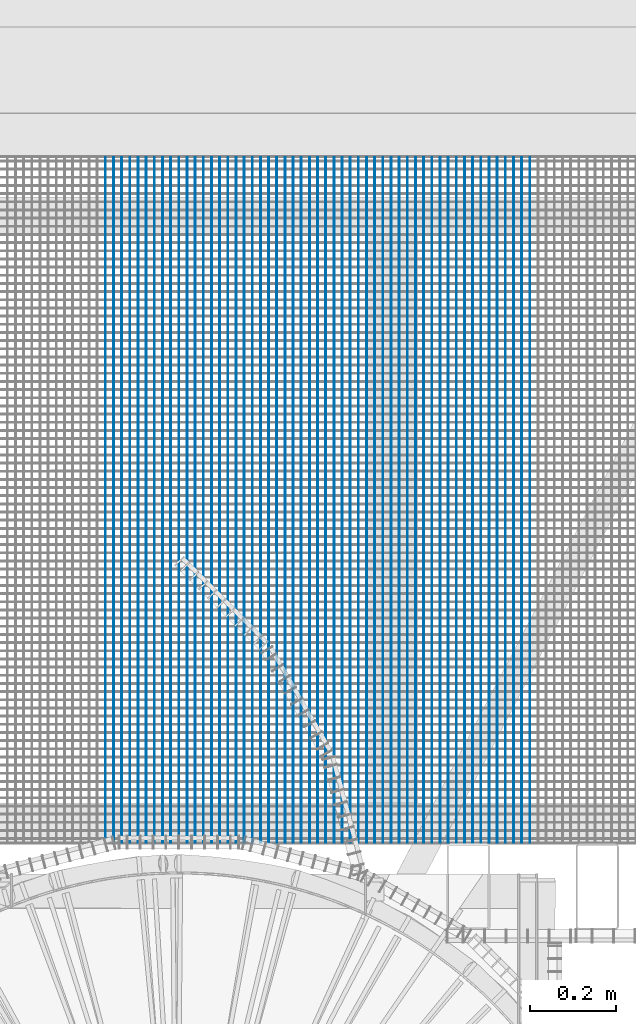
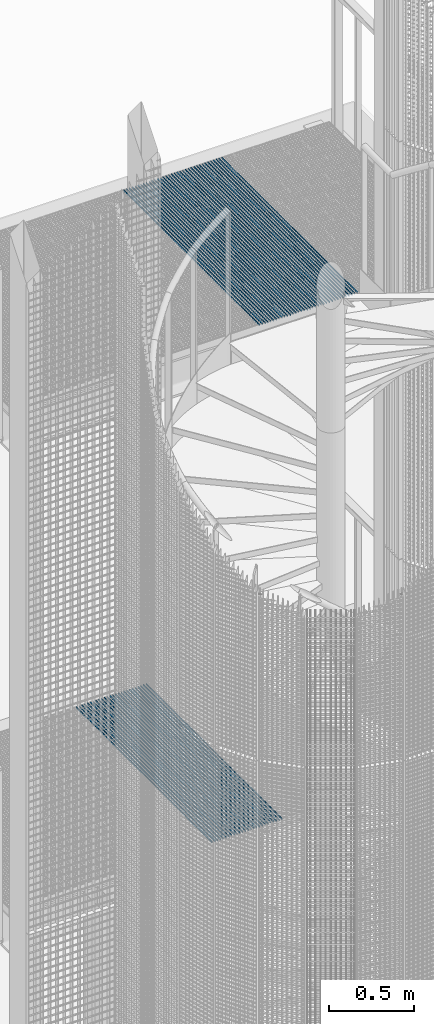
# One storey, part 97 of 1148: 62 beams, 2 elements without a shape of their own.
"""IFC2X3 building model written with IfcOpenShell, lengths in millimetres."""

from ifc_helpers import new_model, si_unit, frame, origin_with_axes, origin_2d_with_axis, place, context, subcontext, project, spatial, rectangle, extrude, material, type_object, element, aggregate, save


model = new_model("IFC2X3")

# Units and contexts
model_context = context("Model", 3, precision=1e-05, world=origin_with_axes())
body_context = subcontext(model_context, "Body", "Model", "MODEL_VIEW")
ifc_project = project(units=[si_unit("LENGTHUNIT", "METRE", prefix="MILLI"), si_unit("AREAUNIT", "SQUARE_METRE"), si_unit("VOLUMEUNIT", "CUBIC_METRE"), si_unit("MASSUNIT", "GRAM", prefix="KILO"), si_unit("TIMEUNIT", "SECOND"), si_unit("PLANEANGLEUNIT", "RADIAN"), si_unit("SOLIDANGLEUNIT", "STERADIAN"), si_unit("THERMODYNAMICTEMPERATUREUNIT", "DEGREE_CELSIUS"), si_unit("LUMINOUSINTENSITYUNIT", "LUMEN")], contexts=[model_context])

# Site, building, storey
site_placement = place(None, origin_with_axes())
site = spatial("IfcSite", under=ifc_project, at=site_placement, Name="Undefined", CompositionType="ELEMENT")
building_placement = place(site_placement, origin_with_axes())
building = spatial("IfcBuilding", under=site, at=building_placement, Name="Undefined", CompositionType="ELEMENT")
storey_placement = place(building_placement, origin_with_axes())
storey = spatial("IfcBuildingStorey", under=building, at=storey_placement, Name="Undefined", CompositionType="ELEMENT", Elevation=0.0)

# Assembly, beams
assembly_1_placement = place(storey_placement, origin_with_axes())
assembly_1 = element("IfcElementAssembly", 1, at=assembly_1_placement, inside=storey, Name="BORDURE", AssemblyPlace="NOTDEFINED", PredefinedType="NOTDEFINED")
ifc_material = material(Name="STEEL/S235JR")
beam_type = type_object("IfcBeamType", Name="PL2*10", PredefinedType="NOTDEFINED")
beam_1_placement = place(assembly_1_placement, frame((21752.1154247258, 1102.00306717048, 13685.0), z_axis=(0.0, 0.0, 1.0), x_axis=(-4.50599999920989e-06, 0.999999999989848, 0.0)))
beam_1 = element("IfcBeam", 2, at=beam_1_placement, type_object=beam_type, material=ifc_material, Name="ENTRETOISE", context=body_context, shape_type="SweptSolid", body=[
    extrude(rectangle(XDim=2.0, YDim=10.0, at=origin_2d_with_axis()), frame((1596.0000000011, -1.35186458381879e-18, -7.27595761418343e-12), z_axis=(-1.0, 0.0, 0.0), x_axis=(0.0, -1.0, 0.0)), (0.0, 0.0, 1.0), 1596.0),
])
beam_2_placement = place(assembly_1_placement, frame((21771.1154247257, 1102.00316068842, 13685.0), z_axis=(0.0, 0.0, 1.0), x_axis=(-4.50599999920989e-06, 0.999999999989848, 0.0)))
beam_2 = element("IfcBeam", 3, at=beam_2_placement, type_object=beam_type, material=ifc_material, Name="ENTRETOISE", context=body_context, shape_type="SweptSolid", body=[
    extrude(rectangle(XDim=2.0, YDim=10.0, at=origin_2d_with_axis()), frame((1596.0000000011, -1.35186458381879e-18, -7.27595761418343e-12), z_axis=(-1.0, 0.0, 0.0), x_axis=(0.0, -1.0, 0.0)), (0.0, 0.0, 1.0), 1596.0),
])
beam_3_placement = place(assembly_1_placement, frame((21790.1154247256, 1102.00325420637, 13685.0), z_axis=(0.0, 0.0, 1.0), x_axis=(-4.50599999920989e-06, 0.999999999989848, 0.0)))
beam_3 = element("IfcBeam", 4, at=beam_3_placement, type_object=beam_type, material=ifc_material, Name="ENTRETOISE", context=body_context, shape_type="SweptSolid", body=[
    extrude(rectangle(XDim=2.0, YDim=10.0, at=origin_2d_with_axis()), frame((1596.0000000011, -1.35186458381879e-18, -7.27595761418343e-12), z_axis=(-1.0, 0.0, 0.0), x_axis=(0.0, -1.0, 0.0)), (0.0, 0.0, 1.0), 1596.0),
])
beam_4_placement = place(assembly_1_placement, frame((21809.1154247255, 1102.00334772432, 13685.0), z_axis=(0.0, 0.0, 1.0), x_axis=(-4.50599999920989e-06, 0.999999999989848, 0.0)))
beam_4 = element("IfcBeam", 5, at=beam_4_placement, type_object=beam_type, material=ifc_material, Name="ENTRETOISE", context=body_context, shape_type="SweptSolid", body=[
    extrude(rectangle(XDim=2.0, YDim=10.0, at=origin_2d_with_axis()), frame((1596.0000000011, -1.35186458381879e-18, -7.27595761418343e-12), z_axis=(-1.0, 0.0, 0.0), x_axis=(0.0, -1.0, 0.0)), (0.0, 0.0, 1.0), 1596.0),
])
beam_5_placement = place(assembly_1_placement, frame((21828.1154247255, 1102.00344124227, 13685.0), z_axis=(0.0, 0.0, 1.0), x_axis=(-4.50599999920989e-06, 0.999999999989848, 0.0)))
beam_5 = element("IfcBeam", 6, at=beam_5_placement, type_object=beam_type, material=ifc_material, Name="ENTRETOISE", context=body_context, shape_type="SweptSolid", body=[
    extrude(rectangle(XDim=2.0, YDim=10.0, at=origin_2d_with_axis()), frame((1596.0000000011, -1.35186458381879e-18, -7.27595761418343e-12), z_axis=(-1.0, 0.0, 0.0), x_axis=(0.0, -1.0, 0.0)), (0.0, 0.0, 1.0), 1596.0),
])
beam_6_placement = place(assembly_1_placement, frame((21847.1154247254, 1102.00353476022, 13685.0), z_axis=(0.0, 0.0, 1.0), x_axis=(-4.50599999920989e-06, 0.999999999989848, 0.0)))
beam_6 = element("IfcBeam", 7, at=beam_6_placement, type_object=beam_type, material=ifc_material, Name="ENTRETOISE", context=body_context, shape_type="SweptSolid", body=[
    extrude(rectangle(XDim=2.0, YDim=10.0, at=origin_2d_with_axis()), frame((1596.0000000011, -1.35186458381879e-18, -7.27595761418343e-12), z_axis=(-1.0, 0.0, 0.0), x_axis=(0.0, -1.0, 0.0)), (0.0, 0.0, 1.0), 1596.0),
])
beam_7_placement = place(assembly_1_placement, frame((21866.1154247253, 1102.00362827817, 13685.0), z_axis=(0.0, 0.0, 1.0), x_axis=(-4.50599999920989e-06, 0.999999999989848, 0.0)))
beam_7 = element("IfcBeam", 8, at=beam_7_placement, type_object=beam_type, material=ifc_material, Name="ENTRETOISE", context=body_context, shape_type="SweptSolid", body=[
    extrude(rectangle(XDim=2.0, YDim=10.0, at=origin_2d_with_axis()), frame((1596.0000000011, -1.35186458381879e-18, -7.27595761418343e-12), z_axis=(-1.0, 0.0, 0.0), x_axis=(0.0, -1.0, 0.0)), (0.0, 0.0, 1.0), 1596.0),
])
beam_8_placement = place(assembly_1_placement, frame((21885.1154247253, 1102.00372179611, 13685.0), z_axis=(0.0, 0.0, 1.0), x_axis=(-4.50599999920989e-06, 0.999999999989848, 0.0)))
beam_8 = element("IfcBeam", 9, at=beam_8_placement, type_object=beam_type, material=ifc_material, Name="ENTRETOISE", context=body_context, shape_type="SweptSolid", body=[
    extrude(rectangle(XDim=2.0, YDim=10.0, at=origin_2d_with_axis()), frame((1596.0000000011, -1.35186458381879e-18, -7.27595761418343e-12), z_axis=(-1.0, 0.0, 0.0), x_axis=(0.0, -1.0, 0.0)), (0.0, 0.0, 1.0), 1596.0),
])
beam_9_placement = place(assembly_1_placement, frame((21904.1154247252, 1102.00381531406, 13685.0), z_axis=(0.0, 0.0, 1.0), x_axis=(-4.50599999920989e-06, 0.999999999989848, 0.0)))
beam_9 = element("IfcBeam", 10, at=beam_9_placement, type_object=beam_type, material=ifc_material, Name="ENTRETOISE", context=body_context, shape_type="SweptSolid", body=[
    extrude(rectangle(XDim=2.0, YDim=10.0, at=origin_2d_with_axis()), frame((1596.0000000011, -1.35186458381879e-18, -7.27595761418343e-12), z_axis=(-1.0, 0.0, 0.0), x_axis=(0.0, -1.0, 0.0)), (0.0, 0.0, 1.0), 1596.0),
])
beam_10_placement = place(assembly_1_placement, frame((21923.1154247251, 1102.00390883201, 13685.0), z_axis=(0.0, 0.0, 1.0), x_axis=(-4.50599999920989e-06, 0.999999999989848, 0.0)))
beam_10 = element("IfcBeam", 11, at=beam_10_placement, type_object=beam_type, material=ifc_material, Name="ENTRETOISE", context=body_context, shape_type="SweptSolid", body=[
    extrude(rectangle(XDim=2.0, YDim=10.0, at=origin_2d_with_axis()), frame((1596.0000000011, -1.35186458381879e-18, -7.27595761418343e-12), z_axis=(-1.0, 0.0, 0.0), x_axis=(0.0, -1.0, 0.0)), (0.0, 0.0, 1.0), 1596.0),
])
beam_11_placement = place(assembly_1_placement, frame((21942.115424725, 1102.00400234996, 13685.0), z_axis=(0.0, 0.0, 1.0), x_axis=(-4.50599999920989e-06, 0.999999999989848, 0.0)))
beam_11 = element("IfcBeam", 12, at=beam_11_placement, type_object=beam_type, material=ifc_material, Name="ENTRETOISE", context=body_context, shape_type="SweptSolid", body=[
    extrude(rectangle(XDim=2.0, YDim=10.0, at=origin_2d_with_axis()), frame((1596.0000000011, -1.35186458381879e-18, -7.27595761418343e-12), z_axis=(-1.0, 0.0, 0.0), x_axis=(0.0, -1.0, 0.0)), (0.0, 0.0, 1.0), 1596.0),
])
beam_12_placement = place(assembly_1_placement, frame((21961.115424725, 1102.00409586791, 13685.0), z_axis=(0.0, 0.0, 1.0), x_axis=(-4.50599999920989e-06, 0.999999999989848, 0.0)))
beam_12 = element("IfcBeam", 13, at=beam_12_placement, type_object=beam_type, material=ifc_material, Name="ENTRETOISE", context=body_context, shape_type="SweptSolid", body=[
    extrude(rectangle(XDim=2.0, YDim=10.0, at=origin_2d_with_axis()), frame((1596.0000000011, -1.35186458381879e-18, -7.27595761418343e-12), z_axis=(-1.0, 0.0, 0.0), x_axis=(0.0, -1.0, 0.0)), (0.0, 0.0, 1.0), 1596.0),
])
beam_13_placement = place(assembly_1_placement, frame((21980.1154247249, 1102.00418938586, 13685.0), z_axis=(0.0, 0.0, 1.0), x_axis=(-4.50599999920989e-06, 0.999999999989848, 0.0)))
beam_13 = element("IfcBeam", 14, at=beam_13_placement, type_object=beam_type, material=ifc_material, Name="ENTRETOISE", context=body_context, shape_type="SweptSolid", body=[
    extrude(rectangle(XDim=2.0, YDim=10.0, at=origin_2d_with_axis()), frame((1596.0000000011, -1.35186458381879e-18, -7.27595761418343e-12), z_axis=(-1.0, 0.0, 0.0), x_axis=(0.0, -1.0, 0.0)), (0.0, 0.0, 1.0), 1596.0),
])
beam_14_placement = place(assembly_1_placement, frame((21999.1154247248, 1102.00428290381, 13685.0), z_axis=(0.0, 0.0, 1.0), x_axis=(-4.50599999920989e-06, 0.999999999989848, 0.0)))
beam_14 = element("IfcBeam", 15, at=beam_14_placement, type_object=beam_type, material=ifc_material, Name="ENTRETOISE", context=body_context, shape_type="SweptSolid", body=[
    extrude(rectangle(XDim=2.0, YDim=10.0, at=origin_2d_with_axis()), frame((1596.0000000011, -1.35186458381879e-18, -7.27595761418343e-12), z_axis=(-1.0, 0.0, 0.0), x_axis=(0.0, -1.0, 0.0)), (0.0, 0.0, 1.0), 1596.0),
])
beam_15_placement = place(assembly_1_placement, frame((22018.1154247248, 1102.00437642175, 13685.0), z_axis=(0.0, 0.0, 1.0), x_axis=(-4.50599999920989e-06, 0.999999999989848, 0.0)))
beam_15 = element("IfcBeam", 16, at=beam_15_placement, type_object=beam_type, material=ifc_material, Name="ENTRETOISE", context=body_context, shape_type="SweptSolid", body=[
    extrude(rectangle(XDim=2.0, YDim=10.0, at=origin_2d_with_axis()), frame((1596.0000000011, -1.35186458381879e-18, -7.27595761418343e-12), z_axis=(-1.0, 0.0, 0.0), x_axis=(0.0, -1.0, 0.0)), (0.0, 0.0, 1.0), 1596.0),
])
beam_16_placement = place(assembly_1_placement, frame((22037.1154247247, 1102.0044699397, 13685.0), z_axis=(0.0, 0.0, 1.0), x_axis=(-4.50599999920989e-06, 0.999999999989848, 0.0)))
beam_16 = element("IfcBeam", 17, at=beam_16_placement, type_object=beam_type, material=ifc_material, Name="ENTRETOISE", context=body_context, shape_type="SweptSolid", body=[
    extrude(rectangle(XDim=2.0, YDim=10.0, at=origin_2d_with_axis()), frame((1596.0000000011, -1.35186458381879e-18, -7.27595761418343e-12), z_axis=(-1.0, 0.0, 0.0), x_axis=(0.0, -1.0, 0.0)), (0.0, 0.0, 1.0), 1596.0),
])
beam_17_placement = place(assembly_1_placement, frame((22056.1154247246, 1102.00456345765, 13685.0), z_axis=(0.0, 0.0, 1.0), x_axis=(-4.50599999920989e-06, 0.999999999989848, 0.0)))
beam_17 = element("IfcBeam", 18, at=beam_17_placement, type_object=beam_type, material=ifc_material, Name="ENTRETOISE", context=body_context, shape_type="SweptSolid", body=[
    extrude(rectangle(XDim=2.0, YDim=10.0, at=origin_2d_with_axis()), frame((1596.0000000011, -1.35186458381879e-18, -7.27595761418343e-12), z_axis=(-1.0, 0.0, 0.0), x_axis=(0.0, -1.0, 0.0)), (0.0, 0.0, 1.0), 1596.0),
])
beam_18_placement = place(assembly_1_placement, frame((22075.1154247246, 1102.0046569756, 13685.0), z_axis=(0.0, 0.0, 1.0), x_axis=(-4.50599999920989e-06, 0.999999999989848, 0.0)))
beam_18 = element("IfcBeam", 19, at=beam_18_placement, type_object=beam_type, material=ifc_material, Name="ENTRETOISE", context=body_context, shape_type="SweptSolid", body=[
    extrude(rectangle(XDim=2.0, YDim=10.0, at=origin_2d_with_axis()), frame((1596.0000000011, -1.35186458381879e-18, -7.27595761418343e-12), z_axis=(-1.0, 0.0, 0.0), x_axis=(0.0, -1.0, 0.0)), (0.0, 0.0, 1.0), 1596.0),
])
beam_19_placement = place(assembly_1_placement, frame((22094.1154247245, 1102.00475049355, 13685.0), z_axis=(0.0, 0.0, 1.0), x_axis=(-4.50599999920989e-06, 0.999999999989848, 0.0)))
beam_19 = element("IfcBeam", 20, at=beam_19_placement, type_object=beam_type, material=ifc_material, Name="ENTRETOISE", context=body_context, shape_type="SweptSolid", body=[
    extrude(rectangle(XDim=2.0, YDim=10.0, at=origin_2d_with_axis()), frame((1596.0000000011, -1.35186458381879e-18, -7.27595761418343e-12), z_axis=(-1.0, 0.0, 0.0), x_axis=(0.0, -1.0, 0.0)), (0.0, 0.0, 1.0), 1596.0),
])
beam_20_placement = place(assembly_1_placement, frame((22113.1154247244, 1102.0048440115, 13685.0), z_axis=(0.0, 0.0, 1.0), x_axis=(-4.50599999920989e-06, 0.999999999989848, 0.0)))
beam_20 = element("IfcBeam", 21, at=beam_20_placement, type_object=beam_type, material=ifc_material, Name="ENTRETOISE", context=body_context, shape_type="SweptSolid", body=[
    extrude(rectangle(XDim=2.0, YDim=10.0, at=origin_2d_with_axis()), frame((1596.0000000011, -1.35186458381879e-18, -7.27595761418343e-12), z_axis=(-1.0, 0.0, 0.0), x_axis=(0.0, -1.0, 0.0)), (0.0, 0.0, 1.0), 1596.0),
])
beam_21_placement = place(assembly_1_placement, frame((22132.1154247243, 1102.00493752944, 13685.0), z_axis=(0.0, 0.0, 1.0), x_axis=(-4.50599999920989e-06, 0.999999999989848, 0.0)))
beam_21 = element("IfcBeam", 22, at=beam_21_placement, type_object=beam_type, material=ifc_material, Name="ENTRETOISE", context=body_context, shape_type="SweptSolid", body=[
    extrude(rectangle(XDim=2.0, YDim=10.0, at=origin_2d_with_axis()), frame((1596.0000000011, -1.35186458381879e-18, -7.27595761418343e-12), z_axis=(-1.0, 0.0, 0.0), x_axis=(0.0, -1.0, 0.0)), (0.0, 0.0, 1.0), 1596.0),
])
beam_22_placement = place(assembly_1_placement, frame((22151.1154247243, 1102.00503104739, 13685.0), z_axis=(0.0, 0.0, 1.0), x_axis=(-4.50599999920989e-06, 0.999999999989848, 0.0)))
beam_22 = element("IfcBeam", 23, at=beam_22_placement, type_object=beam_type, material=ifc_material, Name="ENTRETOISE", context=body_context, shape_type="SweptSolid", body=[
    extrude(rectangle(XDim=2.0, YDim=10.0, at=origin_2d_with_axis()), frame((1596.0000000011, -1.35186458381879e-18, -7.27595761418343e-12), z_axis=(-1.0, 0.0, 0.0), x_axis=(0.0, -1.0, 0.0)), (0.0, 0.0, 1.0), 1596.0),
])
beam_23_placement = place(assembly_1_placement, frame((22170.1154247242, 1102.00512456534, 13685.0), z_axis=(0.0, 0.0, 1.0), x_axis=(-4.50599999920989e-06, 0.999999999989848, 0.0)))
beam_23 = element("IfcBeam", 24, at=beam_23_placement, type_object=beam_type, material=ifc_material, Name="ENTRETOISE", context=body_context, shape_type="SweptSolid", body=[
    extrude(rectangle(XDim=2.0, YDim=10.0, at=origin_2d_with_axis()), frame((1596.0000000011, -1.35186458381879e-18, -7.27595761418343e-12), z_axis=(-1.0, 0.0, 0.0), x_axis=(0.0, -1.0, 0.0)), (0.0, 0.0, 1.0), 1596.0),
])
beam_24_placement = place(assembly_1_placement, frame((22189.1154247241, 1102.00521808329, 13685.0), z_axis=(0.0, 0.0, 1.0), x_axis=(-4.50599999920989e-06, 0.999999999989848, 0.0)))
beam_24 = element("IfcBeam", 25, at=beam_24_placement, type_object=beam_type, material=ifc_material, Name="ENTRETOISE", context=body_context, shape_type="SweptSolid", body=[
    extrude(rectangle(XDim=2.0, YDim=10.0, at=origin_2d_with_axis()), frame((1596.0000000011, -1.35186458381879e-18, -7.27595761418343e-12), z_axis=(-1.0, 0.0, 0.0), x_axis=(0.0, -1.0, 0.0)), (0.0, 0.0, 1.0), 1596.0),
])
beam_25_placement = place(assembly_1_placement, frame((22208.1154247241, 1102.00531160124, 13685.0), z_axis=(0.0, 0.0, 1.0), x_axis=(-4.50599999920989e-06, 0.999999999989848, 0.0)))
beam_25 = element("IfcBeam", 26, at=beam_25_placement, type_object=beam_type, material=ifc_material, Name="ENTRETOISE", context=body_context, shape_type="SweptSolid", body=[
    extrude(rectangle(XDim=2.0, YDim=10.0, at=origin_2d_with_axis()), frame((1596.0000000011, -1.35186458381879e-18, -7.27595761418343e-12), z_axis=(-1.0, 0.0, 0.0), x_axis=(0.0, -1.0, 0.0)), (0.0, 0.0, 1.0), 1596.0),
])
beam_26_placement = place(assembly_1_placement, frame((22227.115424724, 1102.00540511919, 13685.0), z_axis=(0.0, 0.0, 1.0), x_axis=(-4.50599999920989e-06, 0.999999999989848, 0.0)))
beam_26 = element("IfcBeam", 27, at=beam_26_placement, type_object=beam_type, material=ifc_material, Name="ENTRETOISE", context=body_context, shape_type="SweptSolid", body=[
    extrude(rectangle(XDim=2.0, YDim=10.0, at=origin_2d_with_axis()), frame((1596.0000000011, -1.35186458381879e-18, -7.27595761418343e-12), z_axis=(-1.0, 0.0, 0.0), x_axis=(0.0, -1.0, 0.0)), (0.0, 0.0, 1.0), 1596.0),
])
beam_27_placement = place(assembly_1_placement, frame((22246.1154247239, 1102.00549863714, 13685.0), z_axis=(0.0, 0.0, 1.0), x_axis=(-4.50599999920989e-06, 0.999999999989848, 0.0)))
beam_27 = element("IfcBeam", 28, at=beam_27_placement, type_object=beam_type, material=ifc_material, Name="ENTRETOISE", context=body_context, shape_type="SweptSolid", body=[
    extrude(rectangle(XDim=2.0, YDim=10.0, at=origin_2d_with_axis()), frame((1596.0000000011, -1.35186458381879e-18, -7.27595761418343e-12), z_axis=(-1.0, 0.0, 0.0), x_axis=(0.0, -1.0, 0.0)), (0.0, 0.0, 1.0), 1596.0),
])
beam_28_placement = place(assembly_1_placement, frame((22265.1154247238, 1102.00559215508, 13685.0), z_axis=(0.0, 0.0, 1.0), x_axis=(-4.50599999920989e-06, 0.999999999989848, 0.0)))
beam_28 = element("IfcBeam", 29, at=beam_28_placement, type_object=beam_type, material=ifc_material, Name="ENTRETOISE", context=body_context, shape_type="SweptSolid", body=[
    extrude(rectangle(XDim=2.0, YDim=10.0, at=origin_2d_with_axis()), frame((1596.0000000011, -1.35186458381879e-18, -7.27595761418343e-12), z_axis=(-1.0, 0.0, 0.0), x_axis=(0.0, -1.0, 0.0)), (0.0, 0.0, 1.0), 1596.0),
])
beam_29_placement = place(assembly_1_placement, frame((22284.1154247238, 1102.00568567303, 13685.0), z_axis=(0.0, 0.0, 1.0), x_axis=(-4.50599999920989e-06, 0.999999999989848, 0.0)))
beam_29 = element("IfcBeam", 30, at=beam_29_placement, type_object=beam_type, material=ifc_material, Name="ENTRETOISE", context=body_context, shape_type="SweptSolid", body=[
    extrude(rectangle(XDim=2.0, YDim=10.0, at=origin_2d_with_axis()), frame((1596.0000000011, -1.35186458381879e-18, -7.27595761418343e-12), z_axis=(-1.0, 0.0, 0.0), x_axis=(0.0, -1.0, 0.0)), (0.0, 0.0, 1.0), 1596.0),
])
beam_30_placement = place(assembly_1_placement, frame((22303.1154247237, 1102.00577919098, 13685.0), z_axis=(0.0, 0.0, 1.0), x_axis=(-4.50599999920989e-06, 0.999999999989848, 0.0)))
beam_30 = element("IfcBeam", 31, at=beam_30_placement, type_object=beam_type, material=ifc_material, Name="ENTRETOISE", context=body_context, shape_type="SweptSolid", body=[
    extrude(rectangle(XDim=2.0, YDim=10.0, at=origin_2d_with_axis()), frame((1596.0000000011, -1.35186458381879e-18, -7.27595761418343e-12), z_axis=(-1.0, 0.0, 0.0), x_axis=(0.0, -1.0, 0.0)), (0.0, 0.0, 1.0), 1596.0),
])
beam_31_placement = place(assembly_1_placement, frame((22322.1154247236, 1102.00587270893, 13685.0), z_axis=(0.0, 0.0, 1.0), x_axis=(-4.50599999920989e-06, 0.999999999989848, 0.0)))
beam_31 = element("IfcBeam", 32, at=beam_31_placement, type_object=beam_type, material=ifc_material, Name="ENTRETOISE", context=body_context, shape_type="SweptSolid", body=[
    extrude(rectangle(XDim=2.0, YDim=10.0, at=origin_2d_with_axis()), frame((1596.0000000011, -1.35186458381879e-18, -7.27595761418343e-12), z_axis=(-1.0, 0.0, 0.0), x_axis=(0.0, -1.0, 0.0)), (0.0, 0.0, 1.0), 1596.0),
])
beam_32_placement = place(assembly_1_placement, frame((22341.1154247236, 1102.00596622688, 13685.0), z_axis=(0.0, 0.0, 1.0), x_axis=(-4.50599999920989e-06, 0.999999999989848, 0.0)))
beam_32 = element("IfcBeam", 33, at=beam_32_placement, type_object=beam_type, material=ifc_material, Name="ENTRETOISE", context=body_context, shape_type="SweptSolid", body=[
    extrude(rectangle(XDim=2.0, YDim=10.0, at=origin_2d_with_axis()), frame((1596.0000000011, -1.35186458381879e-18, -7.27595761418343e-12), z_axis=(-1.0, 0.0, 0.0), x_axis=(0.0, -1.0, 0.0)), (0.0, 0.0, 1.0), 1596.0),
])
beam_33_placement = place(assembly_1_placement, frame((22360.1154247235, 1102.00605974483, 13685.0), z_axis=(0.0, 0.0, 1.0), x_axis=(-4.50599999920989e-06, 0.999999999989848, 0.0)))
beam_33 = element("IfcBeam", 34, at=beam_33_placement, type_object=beam_type, material=ifc_material, Name="ENTRETOISE", context=body_context, shape_type="SweptSolid", body=[
    extrude(rectangle(XDim=2.0, YDim=10.0, at=origin_2d_with_axis()), frame((1596.0000000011, -1.35186458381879e-18, -7.27595761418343e-12), z_axis=(-1.0, 0.0, 0.0), x_axis=(0.0, -1.0, 0.0)), (0.0, 0.0, 1.0), 1596.0),
])
beam_34_placement = place(assembly_1_placement, frame((22379.1154247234, 1102.00615326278, 13685.0), z_axis=(0.0, 0.0, 1.0), x_axis=(-4.50599999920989e-06, 0.999999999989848, 0.0)))
beam_34 = element("IfcBeam", 35, at=beam_34_placement, type_object=beam_type, material=ifc_material, Name="ENTRETOISE", context=body_context, shape_type="SweptSolid", body=[
    extrude(rectangle(XDim=2.0, YDim=10.0, at=origin_2d_with_axis()), frame((1596.0000000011, -1.35186458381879e-18, -7.27595761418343e-12), z_axis=(-1.0, 0.0, 0.0), x_axis=(0.0, -1.0, 0.0)), (0.0, 0.0, 1.0), 1596.0),
])
beam_35_placement = place(assembly_1_placement, frame((22398.1154247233, 1102.00624678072, 13685.0), z_axis=(0.0, 0.0, 1.0), x_axis=(-4.50599999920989e-06, 0.999999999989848, 0.0)))
beam_35 = element("IfcBeam", 36, at=beam_35_placement, type_object=beam_type, material=ifc_material, Name="ENTRETOISE", context=body_context, shape_type="SweptSolid", body=[
    extrude(rectangle(XDim=2.0, YDim=10.0, at=origin_2d_with_axis()), frame((1596.0000000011, -1.35186458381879e-18, -7.27595761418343e-12), z_axis=(-1.0, 0.0, 0.0), x_axis=(0.0, -1.0, 0.0)), (0.0, 0.0, 1.0), 1596.0),
])
beam_36_placement = place(assembly_1_placement, frame((22417.1154247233, 1102.00634029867, 13685.0), z_axis=(0.0, 0.0, 1.0), x_axis=(-4.50599999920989e-06, 0.999999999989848, 0.0)))
beam_36 = element("IfcBeam", 37, at=beam_36_placement, type_object=beam_type, material=ifc_material, Name="ENTRETOISE", context=body_context, shape_type="SweptSolid", body=[
    extrude(rectangle(XDim=2.0, YDim=10.0, at=origin_2d_with_axis()), frame((1596.0000000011, -1.35186458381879e-18, -7.27595761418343e-12), z_axis=(-1.0, 0.0, 0.0), x_axis=(0.0, -1.0, 0.0)), (0.0, 0.0, 1.0), 1596.0),
])
aggregate(assembly_1, [beam_1, beam_2, beam_3, beam_4, beam_5, beam_6, beam_7, beam_8, beam_9, beam_10, beam_11, beam_12, beam_13, beam_14, beam_15, beam_16, beam_17, beam_18, beam_19, beam_20, beam_21, beam_22, beam_23, beam_24, beam_25, beam_26, beam_27, beam_28, beam_29, beam_30, beam_31, beam_32, beam_33, beam_34, beam_35, beam_36])

assembly_2_placement = place(storey_placement, origin_with_axes())
assembly_2 = element("IfcElementAssembly", 38, at=assembly_2_placement, inside=storey, Name="BORDURE", AssemblyPlace="NOTDEFINED", PredefinedType="NOTDEFINED")
beam_37_placement = place(assembly_2_placement, frame((21429.115424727, 1102.00147736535, 10085.0), z_axis=(0.0, 0.0, 1.0), x_axis=(-4.50599999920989e-06, 0.999999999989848, 0.0)))
beam_37 = element("IfcBeam", 39, at=beam_37_placement, type_object=beam_type, material=ifc_material, Name="ENTRETOISE", context=body_context, shape_type="SweptSolid", body=[
    extrude(rectangle(XDim=2.0, YDim=10.0, at=origin_2d_with_axis()), frame((1596.0000000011, -1.35186458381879e-18, -7.27595761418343e-12), z_axis=(-1.0, 0.0, 0.0), x_axis=(0.0, -1.0, 0.0)), (0.0, 0.0, 1.0), 1596.0),
])
beam_38_placement = place(assembly_2_placement, frame((21448.1154247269, 1102.0015708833, 10085.0), z_axis=(0.0, 0.0, 1.0), x_axis=(-4.50599999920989e-06, 0.999999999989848, 0.0)))
beam_38 = element("IfcBeam", 40, at=beam_38_placement, type_object=beam_type, material=ifc_material, Name="ENTRETOISE", context=body_context, shape_type="SweptSolid", body=[
    extrude(rectangle(XDim=2.0, YDim=10.0, at=origin_2d_with_axis()), frame((1596.0000000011, -1.35186458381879e-18, -7.27595761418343e-12), z_axis=(-1.0, 0.0, 0.0), x_axis=(0.0, -1.0, 0.0)), (0.0, 0.0, 1.0), 1596.0),
])
beam_39_placement = place(assembly_2_placement, frame((21467.1154247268, 1102.00166440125, 10085.0), z_axis=(0.0, 0.0, 1.0), x_axis=(-4.50599999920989e-06, 0.999999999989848, 0.0)))
beam_39 = element("IfcBeam", 41, at=beam_39_placement, type_object=beam_type, material=ifc_material, Name="ENTRETOISE", context=body_context, shape_type="SweptSolid", body=[
    extrude(rectangle(XDim=2.0, YDim=10.0, at=origin_2d_with_axis()), frame((1596.0000000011, -1.35186458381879e-18, -7.27595761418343e-12), z_axis=(-1.0, 0.0, 0.0), x_axis=(0.0, -1.0, 0.0)), (0.0, 0.0, 1.0), 1596.0),
])
beam_40_placement = place(assembly_2_placement, frame((21486.1154247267, 1102.0017579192, 10085.0), z_axis=(0.0, 0.0, 1.0), x_axis=(-4.50599999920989e-06, 0.999999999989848, 0.0)))
beam_40 = element("IfcBeam", 42, at=beam_40_placement, type_object=beam_type, material=ifc_material, Name="ENTRETOISE", context=body_context, shape_type="SweptSolid", body=[
    extrude(rectangle(XDim=2.0, YDim=10.0, at=origin_2d_with_axis()), frame((1596.0000000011, -1.35186458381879e-18, -7.27595761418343e-12), z_axis=(-1.0, 0.0, 0.0), x_axis=(0.0, -1.0, 0.0)), (0.0, 0.0, 1.0), 1596.0),
])
beam_41_placement = place(assembly_2_placement, frame((21505.1154247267, 1102.00185143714, 10085.0), z_axis=(0.0, 0.0, 1.0), x_axis=(-4.50599999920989e-06, 0.999999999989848, 0.0)))
beam_41 = element("IfcBeam", 43, at=beam_41_placement, type_object=beam_type, material=ifc_material, Name="ENTRETOISE", context=body_context, shape_type="SweptSolid", body=[
    extrude(rectangle(XDim=2.0, YDim=10.0, at=origin_2d_with_axis()), frame((1596.0000000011, -1.35186458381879e-18, -7.27595761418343e-12), z_axis=(-1.0, 0.0, 0.0), x_axis=(0.0, -1.0, 0.0)), (0.0, 0.0, 1.0), 1596.0),
])
beam_42_placement = place(assembly_2_placement, frame((21524.1154247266, 1102.00194495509, 10085.0), z_axis=(0.0, 0.0, 1.0), x_axis=(-4.50599999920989e-06, 0.999999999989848, 0.0)))
beam_42 = element("IfcBeam", 44, at=beam_42_placement, type_object=beam_type, material=ifc_material, Name="ENTRETOISE", context=body_context, shape_type="SweptSolid", body=[
    extrude(rectangle(XDim=2.0, YDim=10.0, at=origin_2d_with_axis()), frame((1596.0000000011, -1.35186458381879e-18, -7.27595761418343e-12), z_axis=(-1.0, 0.0, 0.0), x_axis=(0.0, -1.0, 0.0)), (0.0, 0.0, 1.0), 1596.0),
])
beam_43_placement = place(assembly_2_placement, frame((21543.1154247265, 1102.00203847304, 10085.0), z_axis=(0.0, 0.0, 1.0), x_axis=(-4.50599999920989e-06, 0.999999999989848, 0.0)))
beam_43 = element("IfcBeam", 45, at=beam_43_placement, type_object=beam_type, material=ifc_material, Name="ENTRETOISE", context=body_context, shape_type="SweptSolid", body=[
    extrude(rectangle(XDim=2.0, YDim=10.0, at=origin_2d_with_axis()), frame((1596.0000000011, -1.35186458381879e-18, -7.27595761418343e-12), z_axis=(-1.0, 0.0, 0.0), x_axis=(0.0, -1.0, 0.0)), (0.0, 0.0, 1.0), 1596.0),
])
beam_44_placement = place(assembly_2_placement, frame((21562.1154247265, 1102.00213199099, 10085.0), z_axis=(0.0, 0.0, 1.0), x_axis=(-4.50599999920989e-06, 0.999999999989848, 0.0)))
beam_44 = element("IfcBeam", 46, at=beam_44_placement, type_object=beam_type, material=ifc_material, Name="ENTRETOISE", context=body_context, shape_type="SweptSolid", body=[
    extrude(rectangle(XDim=2.0, YDim=10.0, at=origin_2d_with_axis()), frame((1596.0000000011, -1.35186458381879e-18, -7.27595761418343e-12), z_axis=(-1.0, 0.0, 0.0), x_axis=(0.0, -1.0, 0.0)), (0.0, 0.0, 1.0), 1596.0),
])
beam_45_placement = place(assembly_2_placement, frame((21581.1154247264, 1102.00222550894, 10085.0), z_axis=(0.0, 0.0, 1.0), x_axis=(-4.50599999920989e-06, 0.999999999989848, 0.0)))
beam_45 = element("IfcBeam", 47, at=beam_45_placement, type_object=beam_type, material=ifc_material, Name="ENTRETOISE", context=body_context, shape_type="SweptSolid", body=[
    extrude(rectangle(XDim=2.0, YDim=10.0, at=origin_2d_with_axis()), frame((1596.0000000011, -1.35186458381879e-18, -7.27595761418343e-12), z_axis=(-1.0, 0.0, 0.0), x_axis=(0.0, -1.0, 0.0)), (0.0, 0.0, 1.0), 1596.0),
])
beam_46_placement = place(assembly_2_placement, frame((21600.1154247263, 1102.00231902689, 10085.0), z_axis=(0.0, 0.0, 1.0), x_axis=(-4.50599999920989e-06, 0.999999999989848, 0.0)))
beam_46 = element("IfcBeam", 48, at=beam_46_placement, type_object=beam_type, material=ifc_material, Name="ENTRETOISE", context=body_context, shape_type="SweptSolid", body=[
    extrude(rectangle(XDim=2.0, YDim=10.0, at=origin_2d_with_axis()), frame((1596.0000000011, -1.35186458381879e-18, -7.27595761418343e-12), z_axis=(-1.0, 0.0, 0.0), x_axis=(0.0, -1.0, 0.0)), (0.0, 0.0, 1.0), 1596.0),
])
beam_47_placement = place(assembly_2_placement, frame((21619.1154247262, 1102.00241254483, 10085.0), z_axis=(0.0, 0.0, 1.0), x_axis=(-4.50599999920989e-06, 0.999999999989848, 0.0)))
beam_47 = element("IfcBeam", 49, at=beam_47_placement, type_object=beam_type, material=ifc_material, Name="ENTRETOISE", context=body_context, shape_type="SweptSolid", body=[
    extrude(rectangle(XDim=2.0, YDim=10.0, at=origin_2d_with_axis()), frame((1596.0000000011, -1.35186458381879e-18, -7.27595761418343e-12), z_axis=(-1.0, 0.0, 0.0), x_axis=(0.0, -1.0, 0.0)), (0.0, 0.0, 1.0), 1596.0),
])
beam_48_placement = place(assembly_2_placement, frame((21638.1154247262, 1102.00250606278, 10085.0), z_axis=(0.0, 0.0, 1.0), x_axis=(-4.50599999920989e-06, 0.999999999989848, 0.0)))
beam_48 = element("IfcBeam", 50, at=beam_48_placement, type_object=beam_type, material=ifc_material, Name="ENTRETOISE", context=body_context, shape_type="SweptSolid", body=[
    extrude(rectangle(XDim=2.0, YDim=10.0, at=origin_2d_with_axis()), frame((1596.0000000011, -1.35186458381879e-18, -7.27595761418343e-12), z_axis=(-1.0, 0.0, 0.0), x_axis=(0.0, -1.0, 0.0)), (0.0, 0.0, 1.0), 1596.0),
])
beam_49_placement = place(assembly_2_placement, frame((21657.1154247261, 1102.00259958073, 10085.0), z_axis=(0.0, 0.0, 1.0), x_axis=(-4.50599999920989e-06, 0.999999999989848, 0.0)))
beam_49 = element("IfcBeam", 51, at=beam_49_placement, type_object=beam_type, material=ifc_material, Name="ENTRETOISE", context=body_context, shape_type="SweptSolid", body=[
    extrude(rectangle(XDim=2.0, YDim=10.0, at=origin_2d_with_axis()), frame((1596.0000000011, -1.35186458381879e-18, -7.27595761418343e-12), z_axis=(-1.0, 0.0, 0.0), x_axis=(0.0, -1.0, 0.0)), (0.0, 0.0, 1.0), 1596.0),
])
beam_50_placement = place(assembly_2_placement, frame((21676.115424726, 1102.00269309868, 10085.0), z_axis=(0.0, 0.0, 1.0), x_axis=(-4.50599999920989e-06, 0.999999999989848, 0.0)))
beam_50 = element("IfcBeam", 52, at=beam_50_placement, type_object=beam_type, material=ifc_material, Name="ENTRETOISE", context=body_context, shape_type="SweptSolid", body=[
    extrude(rectangle(XDim=2.0, YDim=10.0, at=origin_2d_with_axis()), frame((1596.0000000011, -1.35186458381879e-18, -7.27595761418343e-12), z_axis=(-1.0, 0.0, 0.0), x_axis=(0.0, -1.0, 0.0)), (0.0, 0.0, 1.0), 1596.0),
])
beam_51_placement = place(assembly_2_placement, frame((21695.115424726, 1102.00278661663, 10085.0), z_axis=(0.0, 0.0, 1.0), x_axis=(-4.50599999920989e-06, 0.999999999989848, 0.0)))
beam_51 = element("IfcBeam", 53, at=beam_51_placement, type_object=beam_type, material=ifc_material, Name="ENTRETOISE", context=body_context, shape_type="SweptSolid", body=[
    extrude(rectangle(XDim=2.0, YDim=10.0, at=origin_2d_with_axis()), frame((1596.0000000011, -1.35186458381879e-18, -7.27595761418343e-12), z_axis=(-1.0, 0.0, 0.0), x_axis=(0.0, -1.0, 0.0)), (0.0, 0.0, 1.0), 1596.0),
])
beam_52_placement = place(assembly_2_placement, frame((21714.1154247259, 1102.00288013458, 10085.0), z_axis=(0.0, 0.0, 1.0), x_axis=(-4.50599999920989e-06, 0.999999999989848, 0.0)))
beam_52 = element("IfcBeam", 54, at=beam_52_placement, type_object=beam_type, material=ifc_material, Name="ENTRETOISE", context=body_context, shape_type="SweptSolid", body=[
    extrude(rectangle(XDim=2.0, YDim=10.0, at=origin_2d_with_axis()), frame((1596.0000000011, -1.35186458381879e-18, -7.27595761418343e-12), z_axis=(-1.0, 0.0, 0.0), x_axis=(0.0, -1.0, 0.0)), (0.0, 0.0, 1.0), 1596.0),
])
beam_53_placement = place(assembly_2_placement, frame((21733.1154247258, 1102.00297365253, 10085.0), z_axis=(0.0, 0.0, 1.0), x_axis=(-4.50599999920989e-06, 0.999999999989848, 0.0)))
beam_53 = element("IfcBeam", 55, at=beam_53_placement, type_object=beam_type, material=ifc_material, Name="ENTRETOISE", context=body_context, shape_type="SweptSolid", body=[
    extrude(rectangle(XDim=2.0, YDim=10.0, at=origin_2d_with_axis()), frame((1596.0000000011, -1.35186458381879e-18, -7.27595761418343e-12), z_axis=(-1.0, 0.0, 0.0), x_axis=(0.0, -1.0, 0.0)), (0.0, 0.0, 1.0), 1596.0),
])
beam_54_placement = place(assembly_2_placement, frame((21752.1154247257, 1102.00306717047, 10085.0), z_axis=(0.0, 0.0, 1.0), x_axis=(-4.50599999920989e-06, 0.999999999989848, 0.0)))
beam_54 = element("IfcBeam", 56, at=beam_54_placement, type_object=beam_type, material=ifc_material, Name="ENTRETOISE", context=body_context, shape_type="SweptSolid", body=[
    extrude(rectangle(XDim=2.0, YDim=10.0, at=origin_2d_with_axis()), frame((1596.0000000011, -1.35186458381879e-18, -7.27595761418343e-12), z_axis=(-1.0, 0.0, 0.0), x_axis=(0.0, -1.0, 0.0)), (0.0, 0.0, 1.0), 1596.0),
])
beam_55_placement = place(assembly_2_placement, frame((21771.1154247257, 1102.00316068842, 10085.0), z_axis=(0.0, 0.0, 1.0), x_axis=(-4.50599999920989e-06, 0.999999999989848, 0.0)))
beam_55 = element("IfcBeam", 57, at=beam_55_placement, type_object=beam_type, material=ifc_material, Name="ENTRETOISE", context=body_context, shape_type="SweptSolid", body=[
    extrude(rectangle(XDim=2.0, YDim=10.0, at=origin_2d_with_axis()), frame((1596.0000000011, -1.35186458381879e-18, -7.27595761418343e-12), z_axis=(-1.0, 0.0, 0.0), x_axis=(0.0, -1.0, 0.0)), (0.0, 0.0, 1.0), 1596.0),
])
beam_56_placement = place(assembly_2_placement, frame((21790.1154247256, 1102.00325420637, 10085.0), z_axis=(0.0, 0.0, 1.0), x_axis=(-4.50599999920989e-06, 0.999999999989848, 0.0)))
beam_56 = element("IfcBeam", 58, at=beam_56_placement, type_object=beam_type, material=ifc_material, Name="ENTRETOISE", context=body_context, shape_type="SweptSolid", body=[
    extrude(rectangle(XDim=2.0, YDim=10.0, at=origin_2d_with_axis()), frame((1596.0000000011, -1.35186458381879e-18, -7.27595761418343e-12), z_axis=(-1.0, 0.0, 0.0), x_axis=(0.0, -1.0, 0.0)), (0.0, 0.0, 1.0), 1596.0),
])
beam_57_placement = place(assembly_2_placement, frame((21809.1154247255, 1102.00334772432, 10085.0), z_axis=(0.0, 0.0, 1.0), x_axis=(-4.50599999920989e-06, 0.999999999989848, 0.0)))
beam_57 = element("IfcBeam", 59, at=beam_57_placement, type_object=beam_type, material=ifc_material, Name="ENTRETOISE", context=body_context, shape_type="SweptSolid", body=[
    extrude(rectangle(XDim=2.0, YDim=10.0, at=origin_2d_with_axis()), frame((1596.0000000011, -1.35186458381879e-18, -7.27595761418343e-12), z_axis=(-1.0, 0.0, 0.0), x_axis=(0.0, -1.0, 0.0)), (0.0, 0.0, 1.0), 1596.0),
])
beam_58_placement = place(assembly_2_placement, frame((21828.1154247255, 1102.00344124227, 10085.0), z_axis=(0.0, 0.0, 1.0), x_axis=(-4.50599999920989e-06, 0.999999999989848, 0.0)))
beam_58 = element("IfcBeam", 60, at=beam_58_placement, type_object=beam_type, material=ifc_material, Name="ENTRETOISE", context=body_context, shape_type="SweptSolid", body=[
    extrude(rectangle(XDim=2.0, YDim=10.0, at=origin_2d_with_axis()), frame((1596.0000000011, -1.35186458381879e-18, -7.27595761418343e-12), z_axis=(-1.0, 0.0, 0.0), x_axis=(0.0, -1.0, 0.0)), (0.0, 0.0, 1.0), 1596.0),
])
beam_59_placement = place(assembly_2_placement, frame((21847.1154247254, 1102.00353476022, 10085.0), z_axis=(0.0, 0.0, 1.0), x_axis=(-4.50599999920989e-06, 0.999999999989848, 0.0)))
beam_59 = element("IfcBeam", 61, at=beam_59_placement, type_object=beam_type, material=ifc_material, Name="ENTRETOISE", context=body_context, shape_type="SweptSolid", body=[
    extrude(rectangle(XDim=2.0, YDim=10.0, at=origin_2d_with_axis()), frame((1596.0000000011, -1.35186458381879e-18, -7.27595761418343e-12), z_axis=(-1.0, 0.0, 0.0), x_axis=(0.0, -1.0, 0.0)), (0.0, 0.0, 1.0), 1596.0),
])
beam_60_placement = place(assembly_2_placement, frame((21866.1154247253, 1102.00362827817, 10085.0), z_axis=(0.0, 0.0, 1.0), x_axis=(-4.50599999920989e-06, 0.999999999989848, 0.0)))
beam_60 = element("IfcBeam", 62, at=beam_60_placement, type_object=beam_type, material=ifc_material, Name="ENTRETOISE", context=body_context, shape_type="SweptSolid", body=[
    extrude(rectangle(XDim=2.0, YDim=10.0, at=origin_2d_with_axis()), frame((1596.0000000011, -1.35186458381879e-18, -7.27595761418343e-12), z_axis=(-1.0, 0.0, 0.0), x_axis=(0.0, -1.0, 0.0)), (0.0, 0.0, 1.0), 1596.0),
])
beam_61_placement = place(assembly_2_placement, frame((21885.1154247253, 1102.00372179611, 10085.0), z_axis=(0.0, 0.0, 1.0), x_axis=(-4.50599999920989e-06, 0.999999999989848, 0.0)))
beam_61 = element("IfcBeam", 63, at=beam_61_placement, type_object=beam_type, material=ifc_material, Name="ENTRETOISE", context=body_context, shape_type="SweptSolid", body=[
    extrude(rectangle(XDim=2.0, YDim=10.0, at=origin_2d_with_axis()), frame((1596.0000000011, -1.35186458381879e-18, -7.27595761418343e-12), z_axis=(-1.0, 0.0, 0.0), x_axis=(0.0, -1.0, 0.0)), (0.0, 0.0, 1.0), 1596.0),
])
beam_62_placement = place(assembly_2_placement, frame((21904.1154247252, 1102.00381531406, 10085.0), z_axis=(0.0, 0.0, 1.0), x_axis=(-4.50599999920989e-06, 0.999999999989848, 0.0)))
beam_62 = element("IfcBeam", 64, at=beam_62_placement, type_object=beam_type, material=ifc_material, Name="ENTRETOISE", context=body_context, shape_type="SweptSolid", body=[
    extrude(rectangle(XDim=2.0, YDim=10.0, at=origin_2d_with_axis()), frame((1596.0000000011, -1.35186458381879e-18, -7.27595761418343e-12), z_axis=(-1.0, 0.0, 0.0), x_axis=(0.0, -1.0, 0.0)), (0.0, 0.0, 1.0), 1596.0),
])
aggregate(assembly_2, [beam_37, beam_38, beam_39, beam_40, beam_41, beam_42, beam_43, beam_44, beam_45, beam_46, beam_47, beam_48, beam_49, beam_50, beam_51, beam_52, beam_53, beam_54, beam_55, beam_56, beam_57, beam_58, beam_59, beam_60, beam_61, beam_62])

save(model, "model.ifc")
